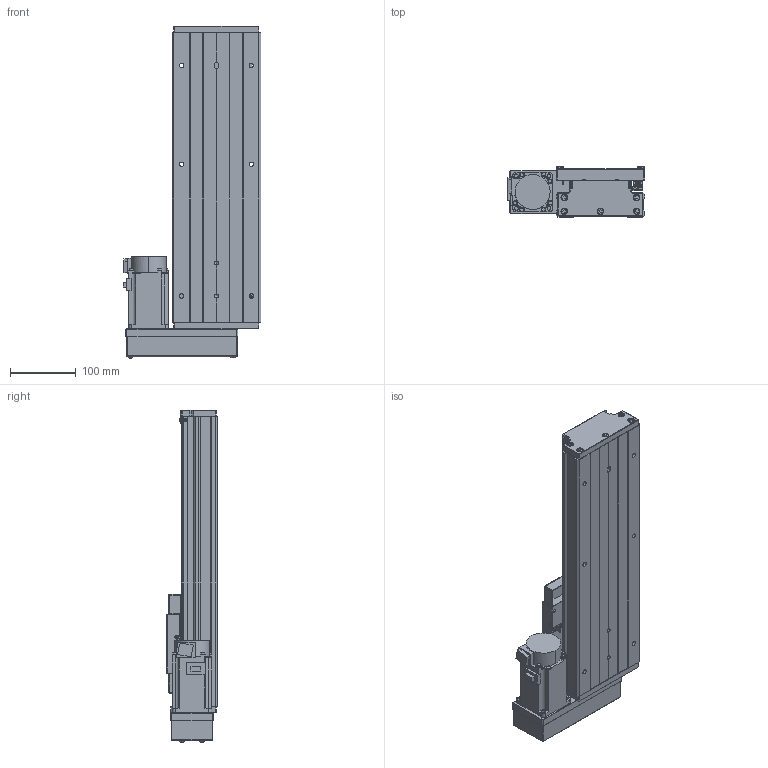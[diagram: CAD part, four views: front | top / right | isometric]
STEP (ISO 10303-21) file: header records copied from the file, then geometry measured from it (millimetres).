
FILE_DESCRIPTION (( 'STEP AP203' ), '1' );
FILE_NAME ('CTH130-250-BL-M40-C4.step', '2023-06-30T02:37:38', ( '微软用户' ), ( '微软中国' ), 'SwSTEP 2.0', 'SolidWorks 2020', '' );
FILE_SCHEMA (( 'CONFIG_CONTROL_DESIGN' ));
Length unit declared in the file: millimetre
Products named in the file (20): GTH14-005; GBT77-2000 M3×3; GTH14-033; GB1155-6X6; CTH130-031; CTH130-250-BL-M40-C4; GBT70.1 M5℅16; GBT 70.2-M3¡Á5_M3¡Á6; GTH14-001_250; CTHA60-017; す晦芛蹟隊 M3℅5; CTH130-002_GTH14-002; EE_SX911P_R; HG-KN43J-S100; GB T308.1-2013-6.35; CTHA60-016; GBT 70.2-M4¡Á35_M4¡Á35; GTH14-004; GBT 70.1-M3℅5; GTH14-015-2_CTHA86-015-2
Assembly tree (60 placements, depth 2):
  CTH130-250-BL-M40-C4
    GTH14-001_250
    CTH130-002_GTH14-002
    GB T308.1-2013-6.35  x2
    GTH14-004
    GTH14-005
    GB1155-6X6  x2
    GBT70.1 M5℅16  x10
    CTHA60-017  x3
    EE_SX911P_R  x3
    CTHA60-016  x2
    GBT 70.1-M3℅5  x6
    GBT77-2000 M3×3  x6
    CTH130-031
    GBT 70.2-M3¡Á5_M3¡Á6  x8
    す晦芛蹟隊 M3℅5  x6
    HG-KN43J-S100
    GBT 70.2-M4¡Á35_M4¡Á35  x4
    GTH14-015-2_CTHA86-015-2
    GTH14-033
Bounding box: 209.3 x 76 x 504.2 mm (x, y, z)
Volume: 2949832.7 mm3; surface area: 560800.4 mm2
Topology: 63 solids, 63 shells, 2415 faces, 5749 edges, 3553 vertices
Faces by surface type: plane 1306, cylinder 630, cone 299, torus 124, sphere 36, bspline 20
Entity records: 43308 total; most frequent: CARTESIAN_POINT 9747, DIRECTION 6282, ORIENTED_EDGE 6204, EDGE_CURVE 3102, AXIS2_PLACEMENT_3D 2132, VECTOR 2018, LINE 2018, VERTEX_POINT 1963
